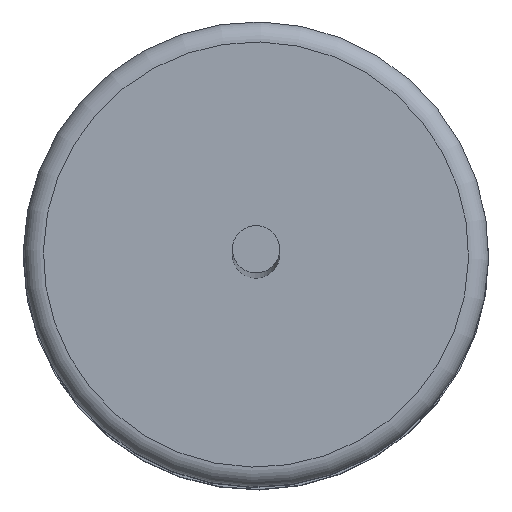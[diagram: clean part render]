
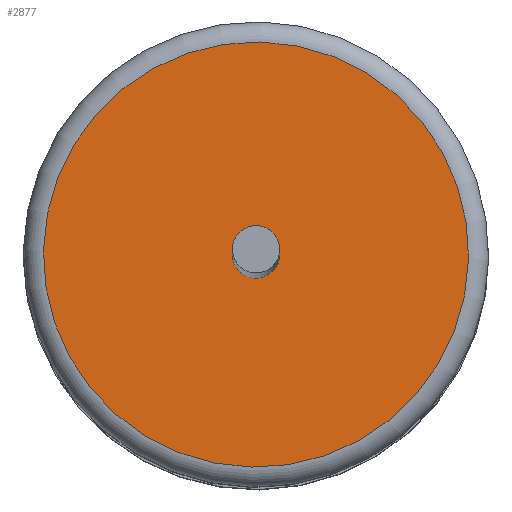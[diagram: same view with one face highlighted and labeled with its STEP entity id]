
A CAD part, top view. The second image highlights one B-rep face of the part: STEP entity #2877.
In plain terms, the highlighted planar face has unit normal (0, 0, 1) as drawn and (0, -1, 0) by its records, which use the part's own axes.
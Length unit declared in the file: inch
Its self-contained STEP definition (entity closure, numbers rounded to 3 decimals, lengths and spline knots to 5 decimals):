
#262=FACE_BOUND('',#651,.T.);
#331=PLANE('',#3128);
#487=FACE_OUTER_BOUND('',#650,.T.);
#650=EDGE_LOOP('',(#2694,#2695));
#651=EDGE_LOOP('',(#2696));
#1126=CIRCLE('',#3118,0.01181);
#1127=CIRCLE('',#3121,0.10614);
#1131=CIRCLE('',#3125,0.10614);
#1412=VERTEX_POINT('',#6440);
#1413=VERTEX_POINT('',#6445);
#1414=VERTEX_POINT('',#6446);
#1837=EDGE_CURVE('',#1412,#1412,#1126,.T.);
#1838=EDGE_CURVE('',#1413,#1414,#1127,.T.);
#1842=EDGE_CURVE('',#1414,#1413,#1131,.T.);
#2694=ORIENTED_EDGE('',*,*,#1838,.F.);
#2695=ORIENTED_EDGE('',*,*,#1842,.F.);
#2696=ORIENTED_EDGE('',*,*,#1837,.T.);
#2877=ADVANCED_FACE('',(#487,#262),#331,.F.);
#3118=AXIS2_PLACEMENT_3D('',#6442,#3671,#3672);
#3121=AXIS2_PLACEMENT_3D('',#6447,#3677,#3678);
#3125=AXIS2_PLACEMENT_3D('',#6453,#3685,#3686);
#3128=AXIS2_PLACEMENT_3D('',#6458,#3692,#3693);
#3671=DIRECTION('center_axis',(0.,1.,0.));
#3672=DIRECTION('ref_axis',(-1.,0.,0.));
#3677=DIRECTION('center_axis',(0.,1.,0.));
#3678=DIRECTION('ref_axis',(1.,0.,0.));
#3685=DIRECTION('center_axis',(0.,1.,0.));
#3686=DIRECTION('ref_axis',(1.,0.,0.));
#3692=DIRECTION('center_axis',(0.,1.,0.));
#3693=DIRECTION('ref_axis',(0.,0.,1.));
#6440=CARTESIAN_POINT('',(0.01181,0.,0.));
#6442=CARTESIAN_POINT('Origin',(0.,0.,0.));
#6445=CARTESIAN_POINT('',(-0.10614,0.,0.));
#6446=CARTESIAN_POINT('',(0.,0.,0.10614));
#6447=CARTESIAN_POINT('Origin',(0.,0.,0.));
#6453=CARTESIAN_POINT('Origin',(0.,0.,0.));
#6458=CARTESIAN_POINT('Origin',(0.,0.,0.));
